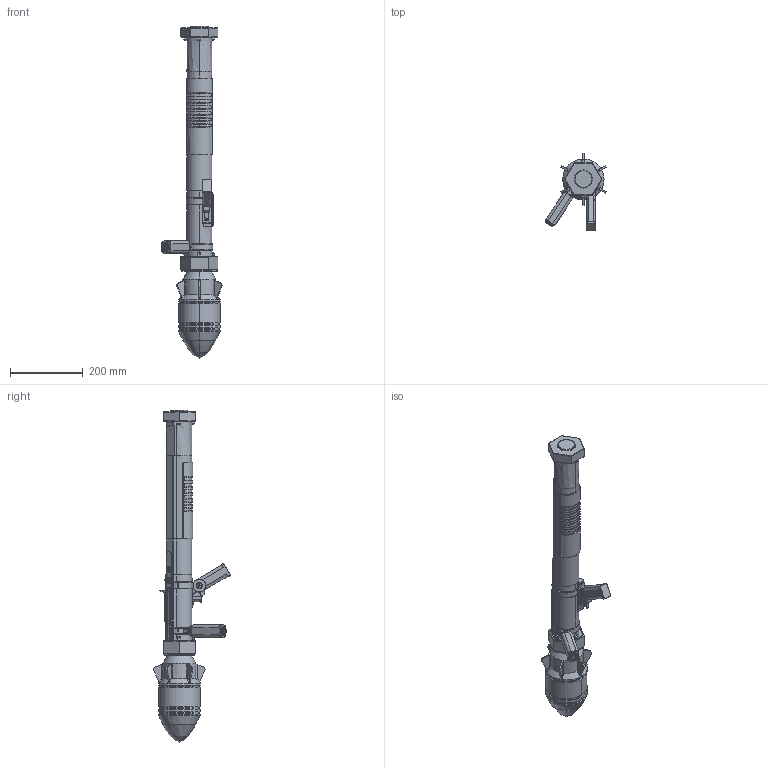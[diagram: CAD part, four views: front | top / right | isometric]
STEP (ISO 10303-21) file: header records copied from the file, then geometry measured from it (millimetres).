
FILE_DESCRIPTION(/* description */ ('STEP AP242 Edition 2','CAx-IF Rec.Pracs.---Representation and Presentation of Product Manufacturing Information (PMI)---4.0---2014-10-13','CAx-IF Rec.Pracs.---3D Tessellated Geometry---0.4---2014-09-14','2;1','CAx-IF Rec.Pracs.---User Defined Attributes---1.5---2016-08-15'),/* implementation_level */ '2;1');
FILE_NAME(/* name */ '698668c7408855f2029a29a4',/* time_stamp */ '2026-02-06T22:18:50Z',/* author */ (''),/* organization */ (''),/* preprocessor_version */ 'ST-DEVELOPER v20',/* originating_system */ 'ONSHAPE BY PTC INC, 1.210',/* authorisation */ ' ');
FILE_SCHEMA (('AP242_MANAGED_MODEL_BASED_3D_ENGINEERING_MIM_LF { 1 0 10303 442 3 1 4 }'));
Products named in the file (10): Part 2; Part 6; Part 10; Part 9; Part 4; Part 8; Part 3; Part 5; Part 7; Part 1
Bounding box: 166.45 x 212.46 x 913.51 mm (x, y, z)
Volume: 4703001.1 mm3; surface area: 404660 mm2
Topology: 10 solids, 10 shells, 1511 faces, 3802 edges, 2308 vertices
Faces by surface type: bspline 1511
Entity records: 50901 total; most frequent: CARTESIAN_POINT 19781, ORIENTED_EDGE 7488, DIRECTION 4854, EDGE_CURVE 3744, VERTEX_POINT 2308, LINE 2100, VECTOR 2100, EDGE_LOOP 1584
